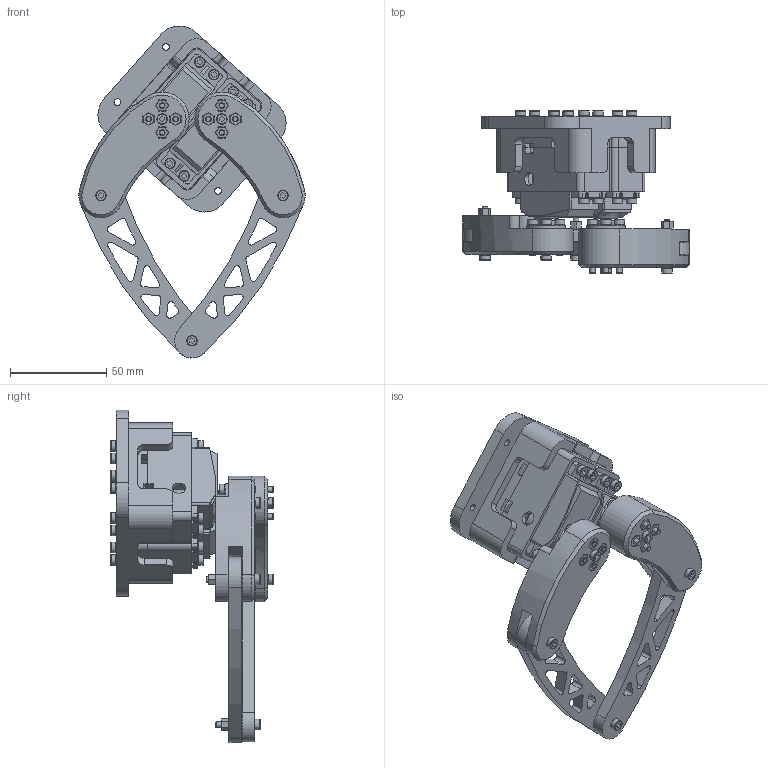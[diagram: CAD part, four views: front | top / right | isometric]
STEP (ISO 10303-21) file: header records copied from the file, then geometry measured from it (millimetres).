
FILE_DESCRIPTION(/* description */ (''),/* implementation_level */ '2;1');
FILE_NAME(/* name */ 'C:/Users/print/Downloads/Zeus 2.0 Quadruped/CAD Files/Leg Assembly .step',/* time_stamp */ '2021-12-25T21:23:36-05:00',/* author */ (''),/* organization */ (''),/* preprocessor_version */ 'ST-DEVELOPER v18.1',/* originating_system */ 'Autodesk Translation Framework v10.10.0.1391',/* authorisation */ '');
FILE_SCHEMA (('AUTOMOTIVE_DESIGN { 1 0 10303 214 3 1 1 }'));
Length unit declared in the file: inch
Products named in the file (36): Leg Assembly; non 3D printed parts ; 25T Disc Servo Horn v1; horn 1; horn 2; Actuators; Servo Actuator 2.0; Servo Actuator 2.0_1; non 3D printed parts; Servo Actuator 2.0_2; Servo Actuator 2.0_3; non 3D printed parts_1; 35 kg DS Servo v5; 8mm x 16mm x 5mm bearing v1; 1/16" thick aluminum bar; 8mm x 2.5mm magnet; AS5600 Absolute Encoder; m3 x 30mm screws; m3 x 10mm threaded inserts; 8mm lock collar; 3D printed parts; bottom housing; magnet mount; top housing; m3 screws and nut; m3 lock nuts; m3 x 16mm ; m3 x 25mm; m3 x 20mm (1); m3 x 10mm (1); 3D printed parts ; link 2; link 3; link 1; link 4; servos holder
Assembly tree (44 placements, depth 7):
  Leg Assembly
    non 3D printed parts 
      25T Disc Servo Horn v1
        horn 1
        horn 2
      Actuators
        Servo Actuator 2.0
          Servo Actuator 2.0_1
            non 3D printed parts
              35 kg DS Servo v5
              8mm x 16mm x 5mm bearing v1
              1/16" thick aluminum bar
              8mm x 2.5mm magnet
              AS5600 Absolute Encoder
              m3 x 30mm screws
              m3 x 10mm threaded inserts
              8mm lock collar
            3D printed parts
              bottom housing
              magnet mount
              top housing
        Servo Actuator 2.0_2
          Servo Actuator 2.0_3
            non 3D printed parts_1
              35 kg DS Servo v5
              8mm x 16mm x 5mm bearing v1
              1/16" thick aluminum bar
              8mm x 2.5mm magnet
              AS5600 Absolute Encoder
              m3 x 30mm screws
              m3 x 10mm threaded inserts
              8mm lock collar
            3D printed parts
              bottom housing
              magnet mount
              top housing
      m3 screws and nut
        m3 lock nuts
        m3 x 16mm 
        m3 x 25mm
        m3 x 20mm (1)
        m3 x 10mm (1)
    3D printed parts 
      link 2
      link 3
      link 1
      link 4
      servos holder
Bounding box: 117.42 x 84.46 x 172.24 mm (x, y, z)
Volume: 243327.2 mm3; surface area: 115275.6 mm2
Topology: 85 solids, 85 shells, 1318 faces, 3049 edges, 2013 vertices
Faces by surface type: plane 845, cylinder 368, torus 91, cone 14
Full cylindrical faces by diameter (mm): 3 x60, 3.4 x8, 3.5 x30, 3.9 x16, 4 x2, 4.4 x8, 4.9 x24, 5.5 x29, 5.9 x4, 6.35 x2, 7 x4, 8 x10, 9 x2, 10.5 x4, 13.5 x4, 14 x2, 16 x6, 17 x2, 17.5 x2, 17.588 x2, 20 x2
Entity records: 30288 total; most frequent: DIRECTION 5320, CARTESIAN_POINT 5024, ORIENTED_EDGE 4700, EDGE_CURVE 2350, AXIS2_PLACEMENT_3D 1888, VERTEX_POINT 1553, LINE 1544, VECTOR 1544
